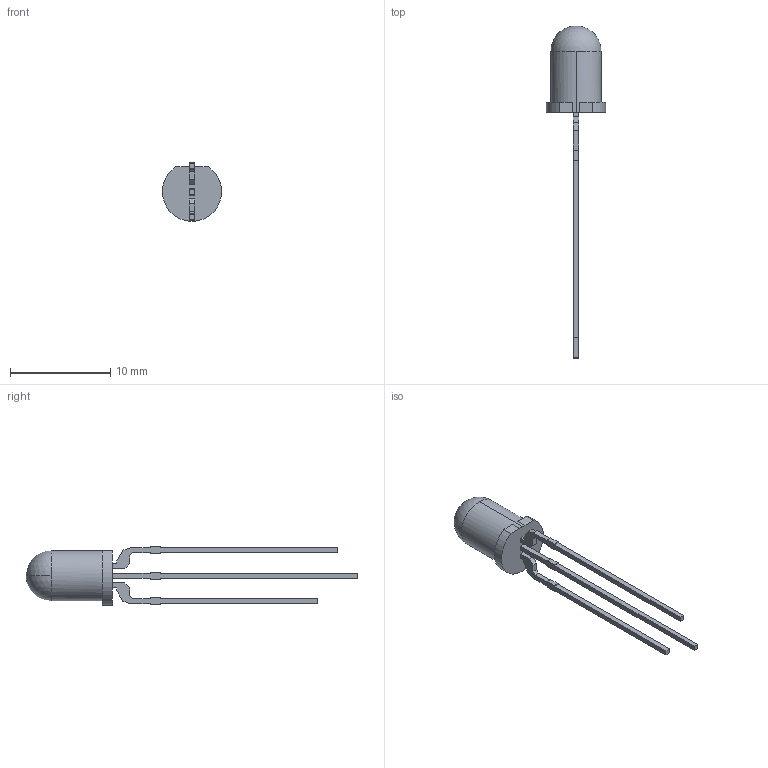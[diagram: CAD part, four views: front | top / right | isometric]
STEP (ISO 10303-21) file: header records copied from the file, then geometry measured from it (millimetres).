
FILE_DESCRIPTION (( 'STEP AP214' ), '1' );
FILE_NAME ('L-59EGW.STEP', '2021-08-23T13:13:21', ( '' ), ( '' ), 'SwSTEP 2.0', 'SolidWorks 2018', '' );
FILE_SCHEMA (( 'AUTOMOTIVE_DESIGN' ));
Length unit declared in the file: millimetre
Products named in the file (1): L-59EGW
Bounding box: 5.9 x 33.1 x 5.84 mm (x, y, z)
Volume: 177.7 mm3; surface area: 315.1 mm2
Topology: 1 solids, 1 shells, 65 faces, 183 edges, 121 vertices
Faces by surface type: plane 59, cylinder 4, sphere 2
Entity records: 2201 total; most frequent: CARTESIAN_POINT 368, ORIENTED_EDGE 362, DIRECTION 327, EDGE_CURVE 181, VECTOR 167, LINE 167, VERTEX_POINT 121, AXIS2_PLACEMENT_3D 80
